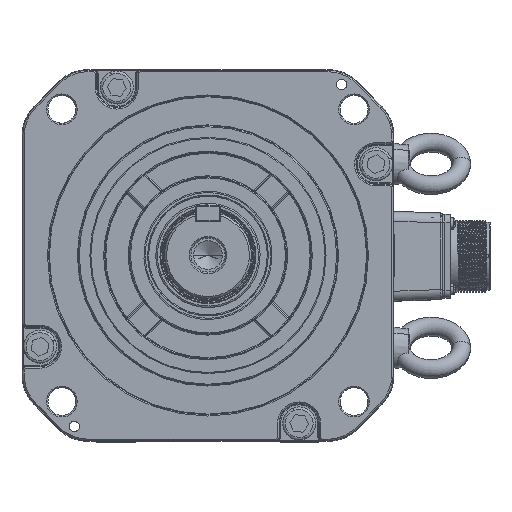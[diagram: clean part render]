
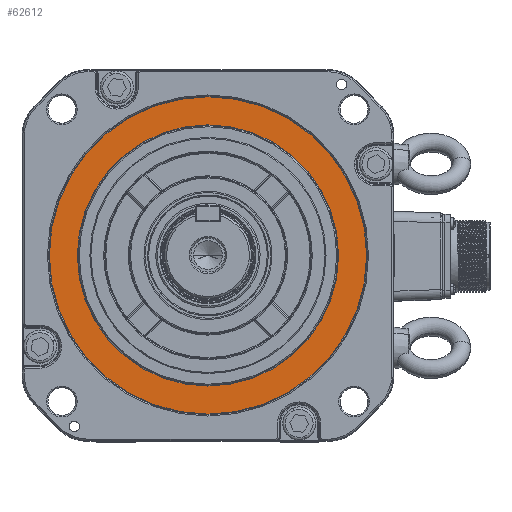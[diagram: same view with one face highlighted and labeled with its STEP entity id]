
A CAD part, top view. The second image highlights one B-rep face of the part: STEP entity #62612.
In plain terms, the highlighted planar face has unit normal (0, 0, 1).
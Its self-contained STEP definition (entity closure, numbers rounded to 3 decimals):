
#2917 = AXIS2_PLACEMENT_3D ( 'NONE', #69170, #90513, #6791 ) ;
#3123 = CIRCLE ( 'NONE', #63641, 63.207 ) ;
#6791 = DIRECTION ( 'NONE',  ( -1., 0., 0. ) ) ;
#8118 = EDGE_LOOP ( 'NONE', ( #38189, #18160 ) ) ;
#10448 = AXIS2_PLACEMENT_3D ( 'NONE', #39981, #88306, #78531 ) ;
#13029 = CARTESIAN_POINT ( 'NONE',  ( 0., 0., -3.7 ) ) ;
#16049 = CARTESIAN_POINT ( 'NONE',  ( -63.207, 0., -3.7 ) ) ;
#18160 = ORIENTED_EDGE ( 'NONE', *, *, #40084, .T. ) ;
#22216 = EDGE_CURVE ( 'NONE', #37050, #98721, #76234, .T. ) ;
#22895 = FACE_BOUND ( 'NONE', #8118, .T. ) ;
#23522 = AXIS2_PLACEMENT_3D ( 'NONE', #13029, #86971, #67419 ) ;
#23603 = EDGE_CURVE ( 'NONE', #91596, #26879, #81735, .T. ) ;
#26879 = VERTEX_POINT ( 'NONE', #90341 ) ;
#26977 = DIRECTION ( 'NONE',  ( 0., 0., -1. ) ) ;
#28298 = ORIENTED_EDGE ( 'NONE', *, *, #22216, .T. ) ;
#36131 = CARTESIAN_POINT ( 'NONE',  ( 0., 0., -3.7 ) ) ;
#37050 = VERTEX_POINT ( 'NONE', #64775 ) ;
#38189 = ORIENTED_EDGE ( 'NONE', *, *, #23603, .T. ) ;
#39981 = CARTESIAN_POINT ( 'NONE',  ( 0., 77., -3.7 ) ) ;
#40084 = EDGE_CURVE ( 'NONE', #26879, #91596, #3123, .T. ) ;
#44471 = DIRECTION ( 'NONE',  ( 0., 0., -1. ) ) ;
#45812 = EDGE_CURVE ( 'NONE', #98721, #37050, #110313, .T. ) ;
#48566 = PLANE ( 'NONE',  #10448 ) ;
#51415 = DIRECTION ( 'NONE',  ( -1., 0., 0. ) ) ;
#51821 = ORIENTED_EDGE ( 'NONE', *, *, #45812, .T. ) ;
#56321 = AXIS2_PLACEMENT_3D ( 'NONE', #106512, #44471, #51415 ) ;
#62612 = ADVANCED_FACE ( 'NONE', ( #98076, #22895 ), #48566, .F. ) ;
#63641 = AXIS2_PLACEMENT_3D ( 'NONE', #36131, #26977, #101564 ) ;
#64775 = CARTESIAN_POINT ( 'NONE',  ( -76.793, 0., -3.7 ) ) ;
#67071 = EDGE_LOOP ( 'NONE', ( #28298, #51821 ) ) ;
#67419 = DIRECTION ( 'NONE',  ( -1., 0., 0. ) ) ;
#69170 = CARTESIAN_POINT ( 'NONE',  ( 0., 0., -3.7 ) ) ;
#76234 = CIRCLE ( 'NONE', #23522, 76.793 ) ;
#78531 = DIRECTION ( 'NONE',  ( -1., 0., 0. ) ) ;
#81735 = CIRCLE ( 'NONE', #56321, 63.207 ) ;
#83243 = CARTESIAN_POINT ( 'NONE',  ( 76.793, 0., -3.7 ) ) ;
#86971 = DIRECTION ( 'NONE',  ( 0., 0., 1. ) ) ;
#88306 = DIRECTION ( 'NONE',  ( 0., 0., -1. ) ) ;
#90341 = CARTESIAN_POINT ( 'NONE',  ( 63.207, 0., -3.7 ) ) ;
#90513 = DIRECTION ( 'NONE',  ( 0., 0., 1. ) ) ;
#91596 = VERTEX_POINT ( 'NONE', #16049 ) ;
#98076 = FACE_OUTER_BOUND ( 'NONE', #67071, .T. ) ;
#98721 = VERTEX_POINT ( 'NONE', #83243 ) ;
#101564 = DIRECTION ( 'NONE',  ( -1., 0., 0. ) ) ;
#106512 = CARTESIAN_POINT ( 'NONE',  ( 0., 0., -3.7 ) ) ;
#110313 = CIRCLE ( 'NONE', #2917, 76.793 ) ;
